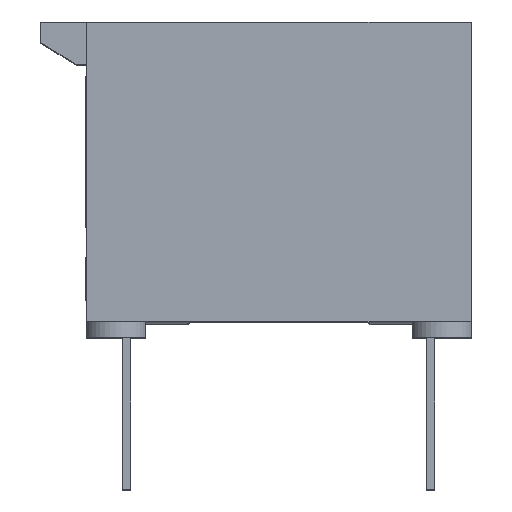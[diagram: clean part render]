
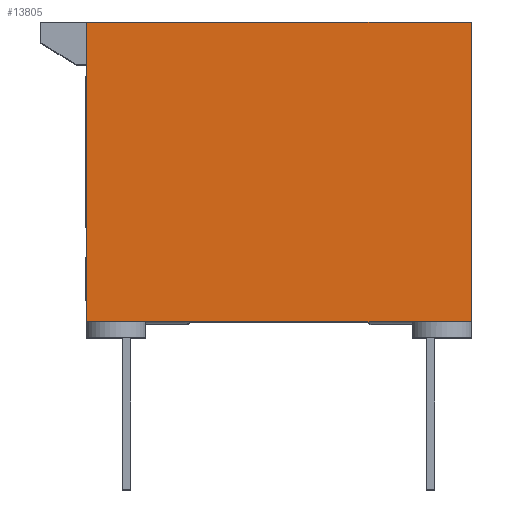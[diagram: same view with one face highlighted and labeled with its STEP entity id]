
A CAD part, top view. The second image highlights one B-rep face of the part: STEP entity #13805.
In plain terms, the highlighted planar face has unit normal (0, 0, 1).
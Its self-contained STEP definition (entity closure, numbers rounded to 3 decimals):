
#472 = PLANE ( 'NONE',  #1884 ) ;
#597 = EDGE_LOOP ( 'NONE', ( #9110, #19073, #3331, #19147 ) ) ;
#1884 = AXIS2_PLACEMENT_3D ( 'NONE', #3387, #14263, #18591 ) ;
#2226 = DIRECTION ( 'NONE',  ( 0., 1., 0. ) ) ;
#2332 = LINE ( 'NONE', #14708, #19681 ) ;
#2596 = EDGE_CURVE ( 'NONE', #2909, #14653, #17659, .T. ) ;
#2909 = VERTEX_POINT ( 'NONE', #6803 ) ;
#3241 = LINE ( 'NONE', #17242, #12353 ) ;
#3331 = ORIENTED_EDGE ( 'NONE', *, *, #6790, .T. ) ;
#3387 = CARTESIAN_POINT ( 'NONE',  ( -4.889, 0., 0. ) ) ;
#5448 = EDGE_CURVE ( 'NONE', #14653, #15522, #15666, .T. ) ;
#5631 = CARTESIAN_POINT ( 'NONE',  ( -4.889, 0., 0. ) ) ;
#6013 = EDGE_CURVE ( 'NONE', #13309, #2909, #2332, .T. ) ;
#6790 = EDGE_CURVE ( 'NONE', #15522, #13309, #3241, .T. ) ;
#6803 = CARTESIAN_POINT ( 'NONE',  ( 4.763, 7.518, 0. ) ) ;
#6836 = DIRECTION ( 'NONE',  ( -1., 0., 0. ) ) ;
#8067 = FACE_OUTER_BOUND ( 'NONE', #597, .T. ) ;
#8186 = CARTESIAN_POINT ( 'NONE',  ( 4.763, 0., 0. ) ) ;
#9110 = ORIENTED_EDGE ( 'NONE', *, *, #2596, .T. ) ;
#9449 = DIRECTION ( 'NONE',  ( 0., -1., 0. ) ) ;
#10628 = CARTESIAN_POINT ( 'NONE',  ( -4.89, 7.518, 0. ) ) ;
#10972 = VECTOR ( 'NONE', #9449, 1000. ) ;
#12353 = VECTOR ( 'NONE', #18835, 1000. ) ;
#13309 = VERTEX_POINT ( 'NONE', #8186 ) ;
#13805 = ADVANCED_FACE ( 'NONE', ( #8067 ), #472, .F. ) ;
#14263 = DIRECTION ( 'NONE',  ( 0., 0., -1. ) ) ;
#14653 = VERTEX_POINT ( 'NONE', #10628 ) ;
#14708 = CARTESIAN_POINT ( 'NONE',  ( 4.763, 0., 0. ) ) ;
#15482 = CARTESIAN_POINT ( 'NONE',  ( -4.889, 0., 0. ) ) ;
#15522 = VERTEX_POINT ( 'NONE', #5631 ) ;
#15666 = LINE ( 'NONE', #15482, #10972 ) ;
#16056 = CARTESIAN_POINT ( 'NONE',  ( 4.763, 7.518, 0. ) ) ;
#17242 = CARTESIAN_POINT ( 'NONE',  ( -4.407, 0., 0. ) ) ;
#17659 = LINE ( 'NONE', #16056, #19234 ) ;
#18591 = DIRECTION ( 'NONE',  ( -1., 0., 0. ) ) ;
#18835 = DIRECTION ( 'NONE',  ( 1., 0., 0. ) ) ;
#19073 = ORIENTED_EDGE ( 'NONE', *, *, #5448, .T. ) ;
#19147 = ORIENTED_EDGE ( 'NONE', *, *, #6013, .T. ) ;
#19234 = VECTOR ( 'NONE', #6836, 1000. ) ;
#19681 = VECTOR ( 'NONE', #2226, 1000. ) ;
